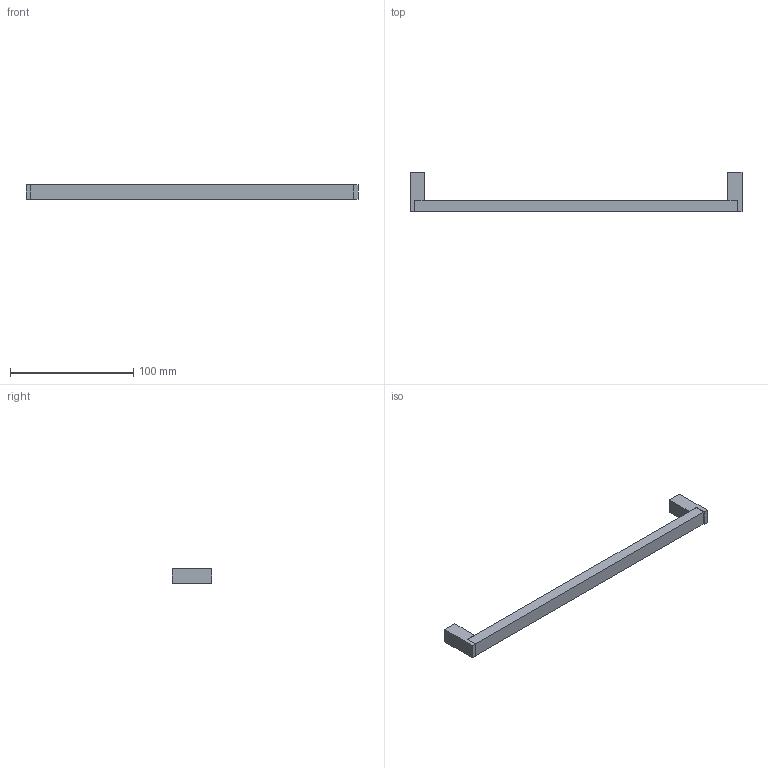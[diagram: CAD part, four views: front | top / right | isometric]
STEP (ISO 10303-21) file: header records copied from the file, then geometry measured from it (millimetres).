
FILE_DESCRIPTION( ( 'STEP AP214' ), '1' );
FILE_NAME( 'C:/Users/kulkarni/Desktop/Apurva/2015/Prodecor_2016/Cadfiles/bermeo/9208078.stp', ' ', ( ' ' ), ( ' ' ), 'PSStep 15.0.47', 'PARTsolutions', ' ' );
FILE_SCHEMA( ( 'AUTOMOTIVE_DESIGN { 1 0 10303 214 1 1 1 1 }' ) );
Length unit declared in the file: millimetre
Products named in the file (1): _
Bounding box: 269 x 32 x 12.15 mm (x, y, z)
Volume: 33872.3 mm3; surface area: 13979 mm2
Topology: 1 solids, 1 shells, 26 faces, 62 edges, 40 vertices
Faces by surface type: plane 24, cylinder 2
Full cylindrical faces by diameter (mm): 5 x2
Entity records: 952 total; most frequent: CARTESIAN_POINT 127, ORIENTED_EDGE 120, DIRECTION 118, EDGE_CURVE 60, LINE 56, VECTOR 56, VERTEX_POINT 40, AXIS2_PLACEMENT_3D 31
